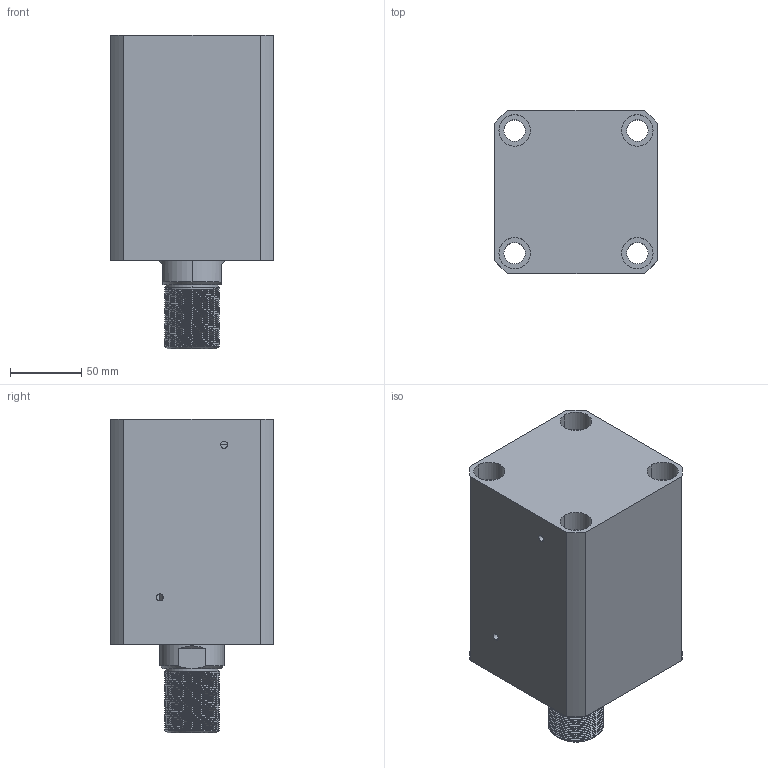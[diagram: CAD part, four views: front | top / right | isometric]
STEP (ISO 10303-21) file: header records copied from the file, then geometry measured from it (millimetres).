
FILE_DESCRIPTION (( 'STEP AP214' ), '1' );
FILE_NAME ('chtb-sdma80x80wasm.STEP', '2018-05-29T03:29:44', ( 'Windows' ), ( 'Microsoft' ), 'SwSTEP 2.0', 'SolidWorks 2015', '' );
FILE_SCHEMA (( 'AUTOMOTIVE_DESIGN' ));
Length unit declared in the file: millimetre
Products named in the file (4): CHTB-SDMA80X80NBT; CHTB-SD80X80WHSG; CHTB-SD80QG; chtb-sdma80x80wasm
Assembly tree (3 placements, depth 2):
  chtb-sdma80x80wasm
    CHTB-SD80QG
    CHTB-SD80X80WHSG
    CHTB-SDMA80X80NBT
Bounding box: 114 x 114 x 220 mm (x, y, z)
Volume: 1675030.8 mm3; surface area: 239263.6 mm2
Topology: 3 solids, 3 shells, 251 faces, 695 edges, 466 vertices
Faces by surface type: cylinder 163, plane 38, torus 18, bspline 16, cone 16
Entity records: 20277 total; most frequent: CARTESIAN_POINT 14301, ORIENTED_EDGE 1382, DIRECTION 1068, EDGE_CURVE 691, VERTEX_POINT 466, AXIS2_PLACEMENT_3D 433, EDGE_LOOP 289, FACE_OUTER_BOUND 251
